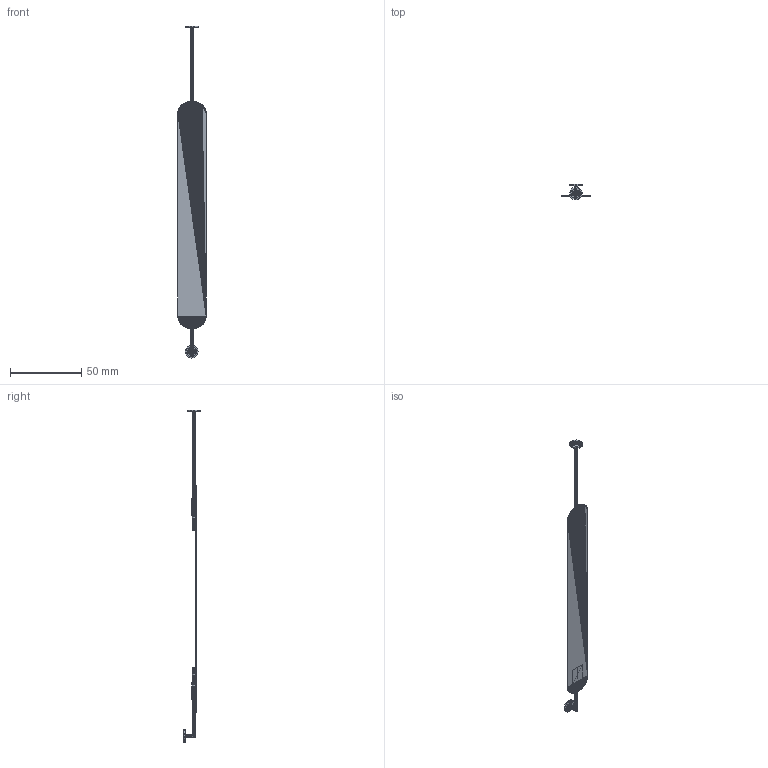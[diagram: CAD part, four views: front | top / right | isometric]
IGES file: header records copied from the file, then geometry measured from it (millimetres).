
Global section: file name: C:\Users\tecnico5\Desktop\ESP.igs; native system: Rhinoceros ( Feb 27 2023 ); preprocessor: Trout Lake IGES 012 Feb 27 2023; date: 230323.064647; units: millimetre
Bounding box: 20 x 11.53 x 233.51 mm (x, y, z)
Surface area: 8241.1 mm2 (no closed solid volume)
Topology: 0 solids, 0 shells, 1640 faces, 4920 edges, 4920 vertices
Faces by surface type: bspline 1640
